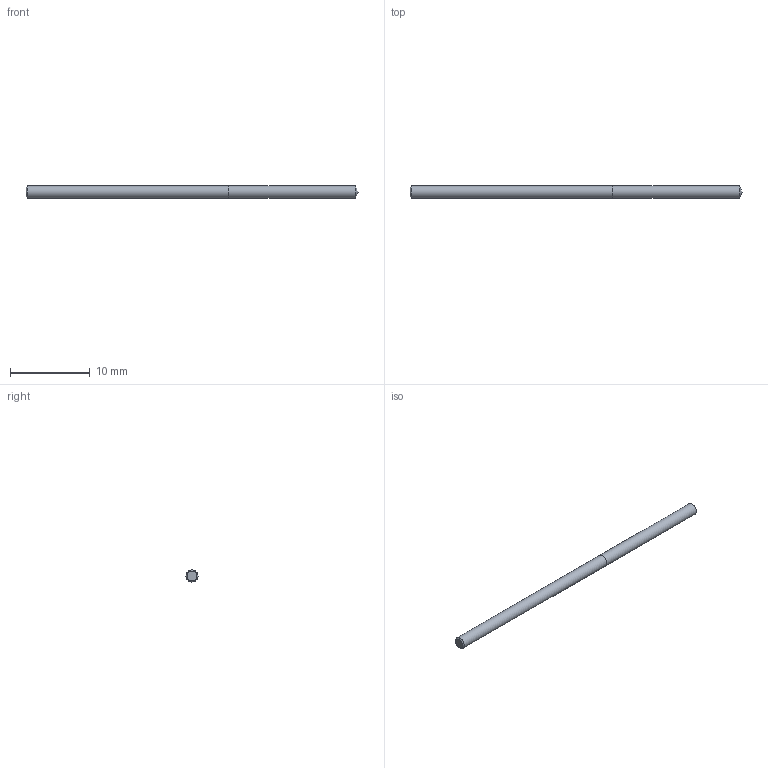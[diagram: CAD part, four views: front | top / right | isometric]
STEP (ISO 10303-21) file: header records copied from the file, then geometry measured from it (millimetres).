
FILE_DESCRIPTION (( 'STEP AP214' ), '1' );
FILE_NAME ('03-2395.STEP', '2022-06-03T07:11:45', ( 'USER' ), ( '' ), 'SwSTEP 2.0', 'SolidWorks 2018', '' );
FILE_SCHEMA (( 'AUTOMOTIVE_DESIGN' ));
Length unit declared in the file: inch
Products named in the file (1): 03-2395
Bounding box: 41.59 x 1.51 x 1.51 mm (x, y, z)
Volume: 74.2 mm3; surface area: 202.8 mm2
Topology: 2 solids, 2 shells, 7 faces, 11 edges, 7 vertices
Faces by surface type: plane 3, cylinder 2, cone 2
Full cylindrical faces by diameter (mm): 1.511 x2
Entity records: 214 total; most frequent: DIRECTION 26, CARTESIAN_POINT 18, AXIS2_PLACEMENT_3D 13, EDGE_LOOP 10, ORIENTED_EDGE 10, FACE_OUTER_BOUND 9, UNCERTAINTY_MEASURE_WITH_UNIT 7, ADVANCED_FACE 7
